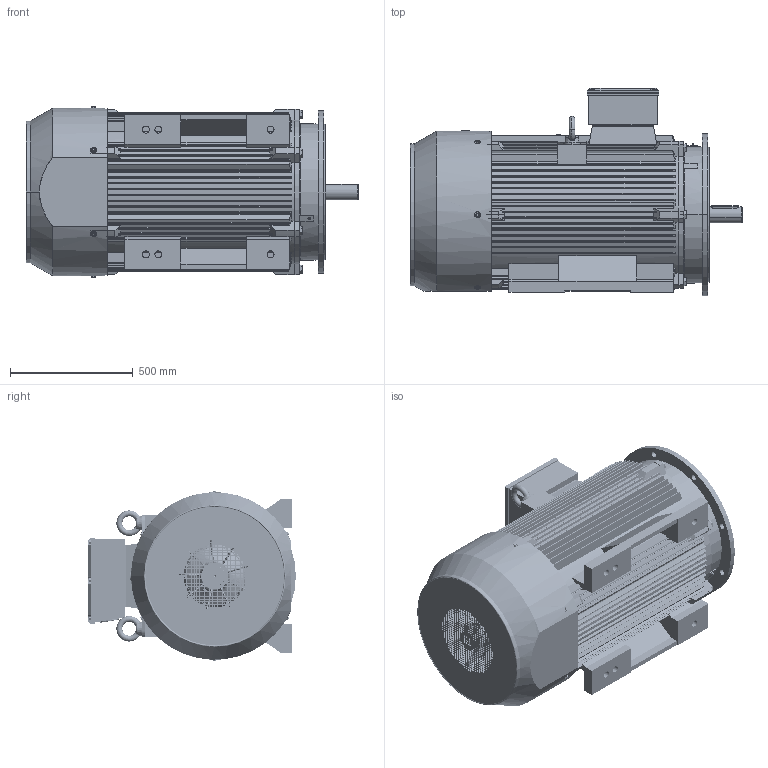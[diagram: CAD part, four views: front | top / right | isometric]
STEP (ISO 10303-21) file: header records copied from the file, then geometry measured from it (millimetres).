
FILE_DESCRIPTION (( 'STEP AP203' ), '1' );
FILE_NAME ('TC 315M-L-2 B35 俋倛芞.STEP', '2013-11-05T05:20:06', ( '123' ), ( 'top' ), 'SwSTEP 2.0', 'SolidWorks 2008', '' );
FILE_SCHEMA (( 'CONFIG_CONTROL_DESIGN' ));
Length unit declared in the file: millimetre
Products named in the file (23): M20-70_默认; TC 315接线盒座_默认; TC 315-4风叶_默认; M10-25_默认; TE315-2端盖_默认; TE315-2轴承外盖_默认; TX315接线盒座垫_默认; TX315接线盒座、盖垫_默认; TE315-2轴承内盖_默认; TC 315M-L-2 B35 俋倛芞; TC 315M-L机壳_默认; TC 315接线盒盖_默认; ｷ釁ﾖﾂﾝｶ､ｼﾓｵ貳ｬ_ﾄｬﾈﾏ; 扣塞_默认; M10-90_默认; 吊环M30_默认; M63螺塞_默认; TC 315铭牌_默认; TC 315L-2 轴_默认; TE315-2风罩_默认; TE315-2端盖B5_默认; 铜油嘴_默认; 油封110-85-12_默认
Assembly tree (45 placements, depth 2):
  TC 315M-L-2 B35 俋倛芞
    TE315-2端盖_默认
    M20-70_默认  x6
    TC 315铭牌_默认
    TC 315-4风叶_默认
    M10-25_默认  x6
    吊环M30_默认  x2
    铜油嘴_默认  x3
    ｷ釁ﾖﾂﾝｶ､ｼﾓｵ貳ｬ_ﾄｬﾈﾏ  x6
    TC 315L-2 轴_默认
    TC 315接线盒座_默认
    M63螺塞_默认  x2
    TE315-2轴承外盖_默认  x2
    TE315-2端盖B5_默认
    TX315接线盒座垫_默认
    TC 315接线盒盖_默认
    M10-90_默认  x4
    TE315-2轴承内盖_默认
    TC 315M-L机壳_默认
    TE315-2风罩_默认
    油封110-85-12_默认
    扣塞_默认
    TX315接线盒座、盖垫_默认
Bounding box: 1352 x 846 x 694.6 mm (x, y, z)
Volume: 75027988.7 mm3; surface area: 12518394.8 mm2
Topology: 48 solids, 48 shells, 7869 faces, 22300 edges, 14680 vertices
Faces by surface type: plane 3965, cylinder 3094, cone 441, torus 246, bspline 117, sphere 6
Entity records: 257995 total; most frequent: CARTESIAN_POINT 59569, ORIENTED_EDGE 41808, DIRECTION 40078, EDGE_CURVE 20904, VERTEX_POINT 13806, AXIS2_PLACEMENT_3D 13801, VECTOR 12476, LINE 12476
